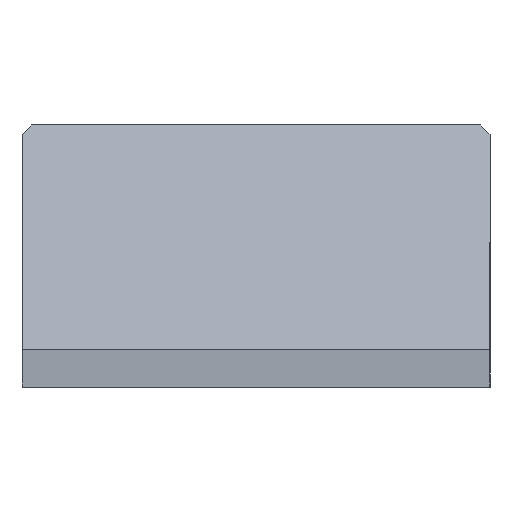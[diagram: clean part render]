
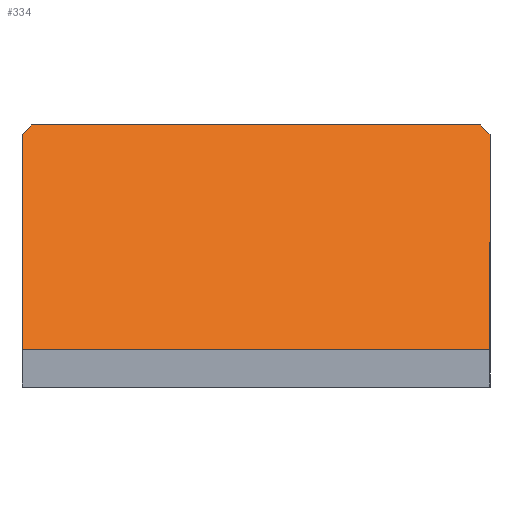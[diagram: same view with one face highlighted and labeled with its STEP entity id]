
A CAD part, left-side view. The second image highlights one B-rep face of the part: STEP entity #334.
In plain terms, the highlighted planar face has unit normal (-0.8, 0, 0.6).
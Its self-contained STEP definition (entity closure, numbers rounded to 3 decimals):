
#239=CARTESIAN_POINT('Vertex',(18.,1.,28.)) ;
#253=CARTESIAN_POINT('Vertex',(18.,49.,28.)) ;
#256=CARTESIAN_POINT('Line Origine',(18.,25.,28.)) ;
#290=CARTESIAN_POINT('Axis2P3D Location',(0.,-10.,4.)) ;
#295=CARTESIAN_POINT('Line Origine',(9.,50.,16.)) ;
#299=CARTESIAN_POINT('Vertex',(17.25,50.,27.)) ;
#301=CARTESIAN_POINT('Vertex',(0.,50.,4.)) ;
#304=CARTESIAN_POINT('Line Origine',(0.,25.,4.)) ;
#308=CARTESIAN_POINT('Vertex',(0.,0.,4.)) ;
#311=CARTESIAN_POINT('Line Origine',(9.,0.,16.)) ;
#315=CARTESIAN_POINT('Vertex',(17.25,0.,27.)) ;
#319=CARTESIAN_POINT('Control Point',(17.25,0.,27.)) ;
#320=CARTESIAN_POINT('Control Point',(18.,1.,28.)) ;
#323=CARTESIAN_POINT('Control Point',(18.,49.,28.)) ;
#324=CARTESIAN_POINT('Control Point',(17.25,50.,27.)) ;
#257=DIRECTION('Vector Direction',(0.,1.,0.)) ;
#291=DIRECTION('Axis2P3D Direction',(0.8,0.,-0.6)) ;
#292=DIRECTION('Axis2P3D XDirection',(0.,1.,0.)) ;
#296=DIRECTION('Vector Direction',(0.6,0.,0.8)) ;
#305=DIRECTION('Vector Direction',(0.,1.,0.)) ;
#312=DIRECTION('Vector Direction',(0.6,0.,0.8)) ;
#293=AXIS2_PLACEMENT_3D('Plane Axis2P3D',#290,#291,#292) ;
#327=ORIENTED_EDGE('',*,*,#303,.T.) ;
#328=ORIENTED_EDGE('',*,*,#310,.T.) ;
#329=ORIENTED_EDGE('',*,*,#317,.T.) ;
#330=ORIENTED_EDGE('',*,*,#321,.F.) ;
#331=ORIENTED_EDGE('',*,*,#260,.F.) ;
#332=ORIENTED_EDGE('',*,*,#325,.F.) ;
#258=VECTOR('Line Direction',#257,1.) ;
#297=VECTOR('Line Direction',#296,1.) ;
#306=VECTOR('Line Direction',#305,1.) ;
#313=VECTOR('Line Direction',#312,1.) ;
#334=ADVANCED_FACE('\X2\96F64EF651E04F554F53\X0\',(#333),#294,.F.) ;
#318=B_SPLINE_CURVE_WITH_KNOTS('',1,(#319,#320),.UNSPECIFIED.,.F.,.U.,(2,2),(-0.8,0.8),.UNSPECIFIED.) ;
#322=B_SPLINE_CURVE_WITH_KNOTS('',1,(#323,#324),.UNSPECIFIED.,.F.,.U.,(2,2),(-0.8,0.8),.UNSPECIFIED.) ;
#260=EDGE_CURVE('',#254,#240,#259,.F.) ;
#303=EDGE_CURVE('',#300,#302,#298,.F.) ;
#310=EDGE_CURVE('',#302,#309,#307,.F.) ;
#317=EDGE_CURVE('',#309,#316,#314,.T.) ;
#321=EDGE_CURVE('',#240,#316,#318,.F.) ;
#325=EDGE_CURVE('',#300,#254,#322,.F.) ;
#326=EDGE_LOOP('',(#327,#328,#329,#330,#331,#332)) ;
#333=FACE_OUTER_BOUND('',#326,.T.) ;
#259=LINE('Line',#256,#258) ;
#298=LINE('Line',#295,#297) ;
#307=LINE('Line',#304,#306) ;
#314=LINE('Line',#311,#313) ;
#294=PLANE('Plane',#293) ;
#240=VERTEX_POINT('',#239) ;
#254=VERTEX_POINT('',#253) ;
#300=VERTEX_POINT('',#299) ;
#302=VERTEX_POINT('',#301) ;
#309=VERTEX_POINT('',#308) ;
#316=VERTEX_POINT('',#315) ;
